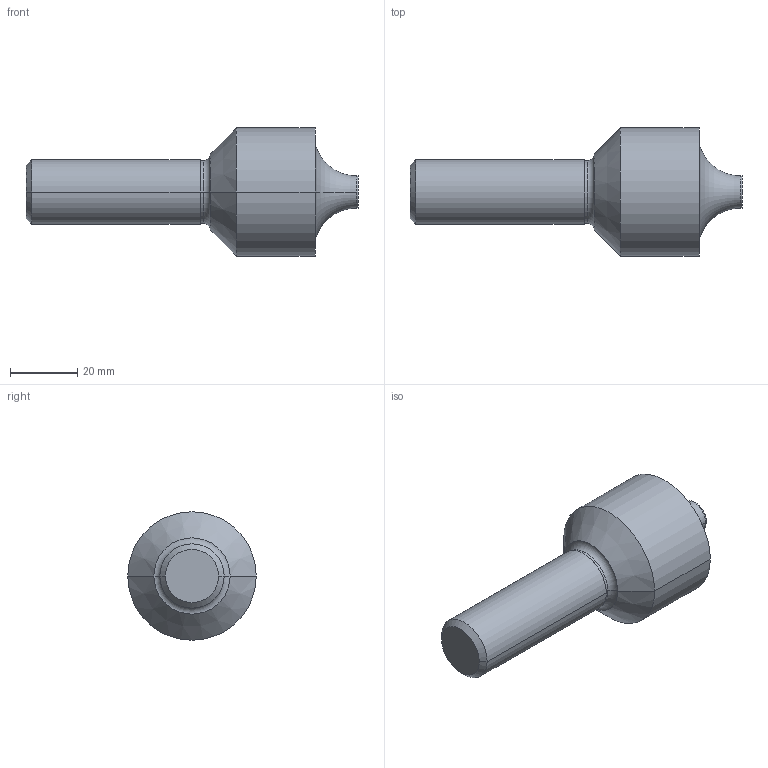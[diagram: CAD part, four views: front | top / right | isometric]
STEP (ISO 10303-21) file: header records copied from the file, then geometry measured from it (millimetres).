
FILE_DESCRIPTION (( 'STEP AP214' ), '1' );
FILE_NAME ('EQ237904.STEP', '2022-01-26T02:15:47', ( 'USER' ), ( '' ), 'SwSTEP 2.0', 'SolidWorks 2014', '' );
FILE_SCHEMA (( 'AUTOMOTIVE_DESIGN' ));
Length unit declared in the file: millimetre
Products named in the file (1): EQ237904
Bounding box: 98.42 x 38.1 x 38.1 mm (x, y, z)
Volume: 50152.3 mm3; surface area: 8863.9 mm2
Topology: 1 solids, 1 shells, 20 faces, 38 edges, 22 vertices
Faces by surface type: cylinder 8, cone 4, torus 4, plane 4
Entity records: 542 total; most frequent: DIRECTION 106, CARTESIAN_POINT 81, ORIENTED_EDGE 76, AXIS2_PLACEMENT_3D 47, EDGE_CURVE 38, CIRCLE 26, VERTEX_POINT 22, EDGE_LOOP 22
